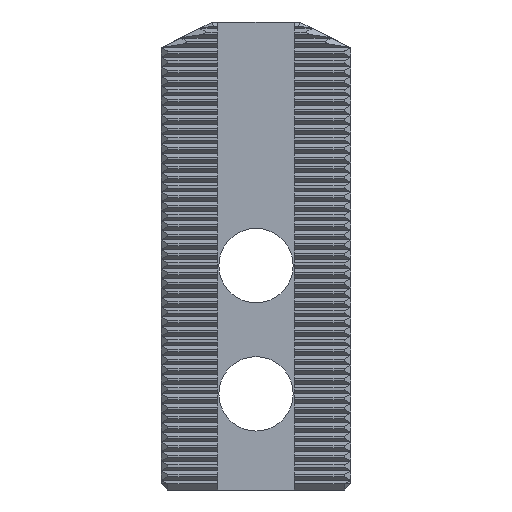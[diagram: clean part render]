
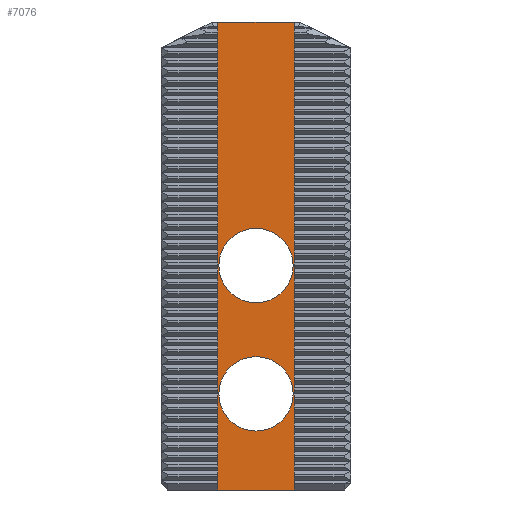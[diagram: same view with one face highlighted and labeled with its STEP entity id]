
A CAD part, front view. The second image highlights one B-rep face of the part: STEP entity #7076.
In plain terms, the highlighted planar face has unit normal (0, -1, 0).
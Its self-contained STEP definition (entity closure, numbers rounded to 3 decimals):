
#21=FACE_BOUND('',#461,.T.);
#22=FACE_BOUND('',#462,.T.);
#27=CIRCLE('',#7520,5.8);
#28=CIRCLE('',#7521,5.8);
#40=FACE_OUTER_BOUND('',#460,.T.);
#460=EDGE_LOOP('',(#4737,#4738,#4739,#4740));
#461=EDGE_LOOP('',(#4741));
#462=EDGE_LOOP('',(#4742));
#887=LINE('',#9848,#1911);
#1033=LINE('',#10140,#2057);
#1034=LINE('',#10142,#2058);
#1035=LINE('',#10143,#2059);
#1911=VECTOR('',#7956,10.);
#2057=VECTOR('',#8104,10.);
#2058=VECTOR('',#8105,10.);
#2059=VECTOR('',#8106,10.);
#2935=VERTEX_POINT('',#9845);
#2936=VERTEX_POINT('',#9847);
#3081=VERTEX_POINT('',#10139);
#3082=VERTEX_POINT('',#10141);
#3083=VERTEX_POINT('',#10144);
#3084=VERTEX_POINT('',#10146);
#3555=EDGE_CURVE('',#2935,#2936,#887,.T.);
#3701=EDGE_CURVE('',#2936,#3081,#1033,.T.);
#3702=EDGE_CURVE('',#3082,#2935,#1034,.T.);
#3703=EDGE_CURVE('',#3082,#3081,#1035,.T.);
#3704=EDGE_CURVE('',#3083,#3083,#27,.T.);
#3705=EDGE_CURVE('',#3084,#3084,#28,.T.);
#4737=ORIENTED_EDGE('',*,*,#3701,.F.);
#4738=ORIENTED_EDGE('',*,*,#3555,.F.);
#4739=ORIENTED_EDGE('',*,*,#3702,.F.);
#4740=ORIENTED_EDGE('',*,*,#3703,.T.);
#4741=ORIENTED_EDGE('',*,*,#3704,.F.);
#4742=ORIENTED_EDGE('',*,*,#3705,.F.);
#6662=PLANE('',#7519);
#7076=ADVANCED_FACE('',(#40,#21,#22),#6662,.F.);
#7519=AXIS2_PLACEMENT_3D('',#10138,#8102,#8103);
#7520=AXIS2_PLACEMENT_3D('',#10145,#8107,#8108);
#7521=AXIS2_PLACEMENT_3D('',#10147,#8109,#8110);
#7956=DIRECTION('',(0.,0.,-1.));
#8102=DIRECTION('center_axis',(0.,1.,0.));
#8103=DIRECTION('ref_axis',(1.,0.,0.));
#8104=DIRECTION('',(-1.,0.,0.));
#8105=DIRECTION('',(1.,0.,0.));
#8106=DIRECTION('',(0.,0.,-1.));
#8107=DIRECTION('center_axis',(0.,-1.,0.));
#8108=DIRECTION('ref_axis',(1.,0.,0.));
#8109=DIRECTION('center_axis',(0.,-1.,0.));
#8110=DIRECTION('ref_axis',(1.,0.,0.));
#9845=CARTESIAN_POINT('',(6.,5.,36.5));
#9847=CARTESIAN_POINT('',(6.,5.,-36.5));
#9848=CARTESIAN_POINT('',(6.,5.,36.5));
#10138=CARTESIAN_POINT('Origin',(-6.,5.,36.5));
#10139=CARTESIAN_POINT('',(-6.,5.,-36.5));
#10140=CARTESIAN_POINT('',(4.375,5.,-36.5));
#10141=CARTESIAN_POINT('',(-6.,5.,36.5));
#10142=CARTESIAN_POINT('',(-6.4,5.,36.5));
#10143=CARTESIAN_POINT('',(-6.,5.,36.5));
#10144=CARTESIAN_POINT('',(-5.8,5.,-1.5));
#10145=CARTESIAN_POINT('Origin',(0.,5.,-1.5));
#10146=CARTESIAN_POINT('',(-5.8,5.,-21.5));
#10147=CARTESIAN_POINT('Origin',(0.,5.,-21.5));
